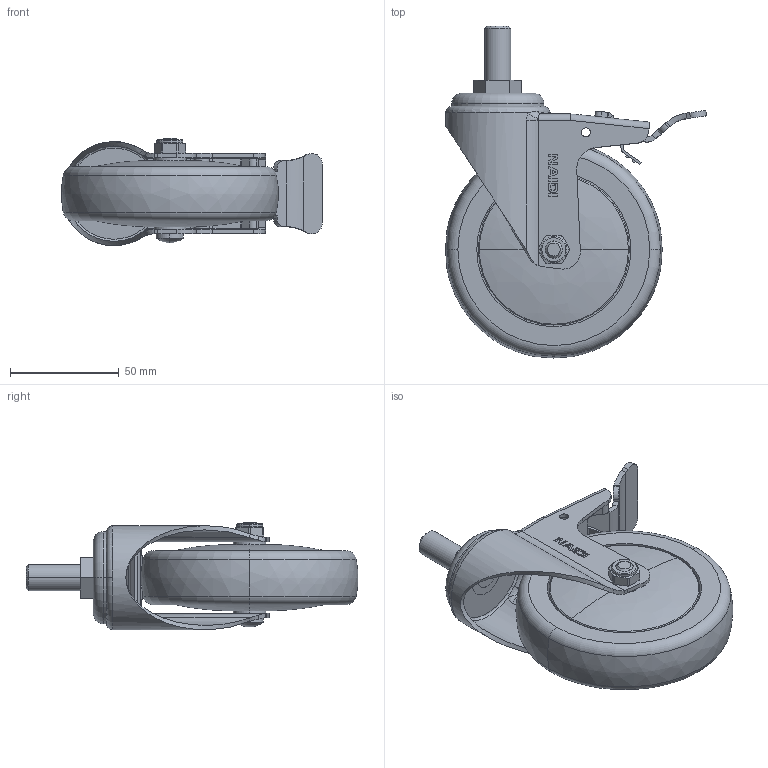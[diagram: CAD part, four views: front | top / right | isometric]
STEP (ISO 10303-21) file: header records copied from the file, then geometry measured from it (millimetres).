
FILE_DESCRIPTION((''),'2;1');
FILE_NAME('C34144L_ASM','2024-09-24T',('Lenovo'),(''),'PRO/ENGINEER BY PARAMETRIC TECHNOLOGY CORPORATION, 2010280','PRO/ENGINEER BY PARAMETRIC TECHNOLOGY CORPORATION, 2010280','');
FILE_SCHEMA(('CONFIG_CONTROL_DESIGN'));
Length unit declared in the file: millimetre
Products named in the file (10): C3414-321; 360-23-M12X25; C3410-211; C340-13; C3410-14; C344-967; 374-69; 350-33A; 300-34; C34144L_ASM
Assembly tree (10 placements, depth 2):
  C34144L_ASM
    C3414-321
    360-23-M12X25
    C3410-211
    C340-13
    C3410-14
    C344-967
    374-69  x2
    350-33A
    300-34
Bounding box: 120.21 x 152.9 x 49.48 mm (x, y, z)
Volume: 180298.1 mm3; surface area: 82021.3 mm2
Topology: 10 solids, 10 shells, 404 faces, 964 edges, 601 vertices
Faces by surface type: plane 189, cylinder 134, torus 36, bspline 27, cone 16, sphere 2
Entity records: 12789 total; most frequent: CARTESIAN_POINT 3809, DIRECTION 1878, ORIENTED_EDGE 1792, EDGE_CURVE 896, AXIS2_PLACEMENT_3D 676, VERTEX_POINT 563, VECTOR 526, LINE 526
